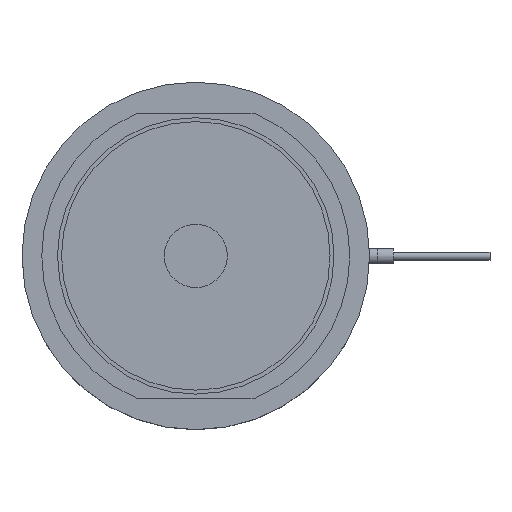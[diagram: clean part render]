
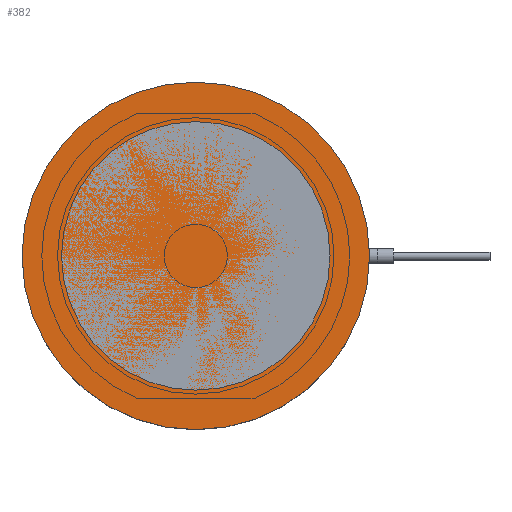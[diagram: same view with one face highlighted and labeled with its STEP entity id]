
A CAD part, top view. The second image highlights one B-rep face of the part: STEP entity #382.
In plain terms, the highlighted planar face has unit normal (0, 0, 1).
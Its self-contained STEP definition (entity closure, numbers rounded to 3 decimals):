
#382=ADVANCED_FACE('',(#480),#422,.F.);
#422=PLANE('',#1293);
#480=FACE_OUTER_BOUND('',#613,.T.);
#613=EDGE_LOOP('',(#841));
#841=ORIENTED_EDGE('',*,*,#1056,.F.);
#941=VERTEX_POINT('',#2069);
#1056=EDGE_CURVE('',#941,#941,#1134,.T.);
#1134=CIRCLE('',#1292,22.);
#1292=AXIS2_PLACEMENT_3D('',#2068,#1637,#1638);
#1293=AXIS2_PLACEMENT_3D('',#2070,#1639,#1640);
#1637=DIRECTION('',(0.,0.,-1.));
#1638=DIRECTION('',(-1.,0.,0.));
#1639=DIRECTION('',(0.,0.,-1.));
#1640=DIRECTION('',(-1.,0.,0.));
#2068=CARTESIAN_POINT('',(0.,0.,0.));
#2069=CARTESIAN_POINT('',(-22.,0.,0.));
#2070=CARTESIAN_POINT('',(0.,0.,0.));
